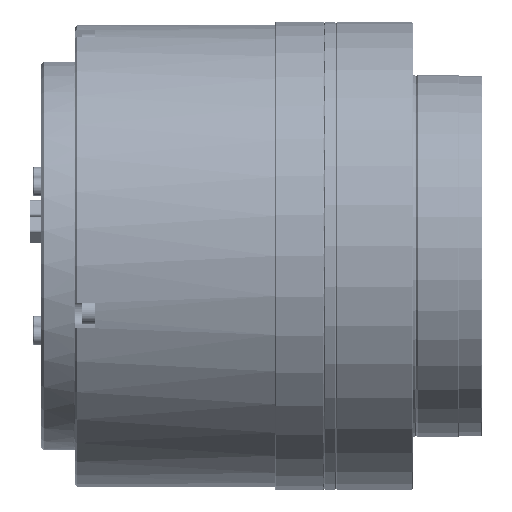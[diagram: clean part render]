
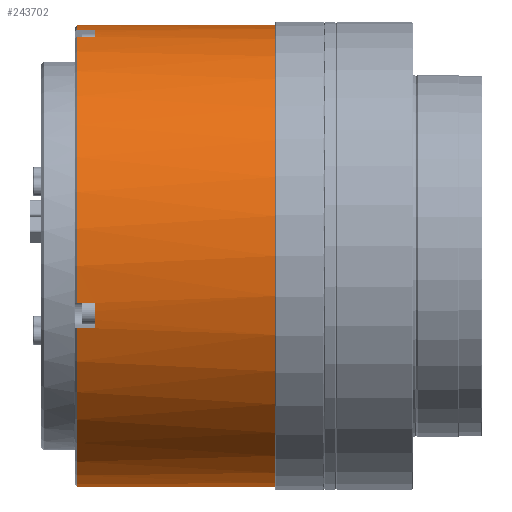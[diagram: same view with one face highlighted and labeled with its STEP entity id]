
A CAD part, front view. The second image highlights one B-rep face of the part: STEP entity #243702.
In plain terms, the highlighted cylindrical face has radius 70 mm (diameter 140 mm), a partial arc.
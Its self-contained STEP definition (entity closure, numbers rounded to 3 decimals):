
#1721 = DIRECTION ( 'NONE',  ( 1., 0., 0. ) ) ;
#7757 = VERTEX_POINT ( 'NONE', #84099 ) ;
#7813 = DIRECTION ( 'NONE',  ( 0., 0., 1. ) ) ;
#9472 = DIRECTION ( 'NONE',  ( 0., 0., 1. ) ) ;
#23084 = CARTESIAN_POINT ( 'NONE',  ( -75., -21.951, 66.469 ) ) ;
#24381 = DIRECTION ( 'NONE',  ( 0., 0., 1. ) ) ;
#24463 = DIRECTION ( 'NONE',  ( 1., 0., 0. ) ) ;
#29376 = VERTEX_POINT ( 'NONE', #42567 ) ;
#32503 = VERTEX_POINT ( 'NONE', #23084 ) ;
#32787 = CARTESIAN_POINT ( 'NONE',  ( 1.5, 0., 70. ) ) ;
#42509 = VERTEX_POINT ( 'NONE', #256988 ) ;
#42567 = CARTESIAN_POINT ( 'NONE',  ( -69.5, -68.54, -14.224 ) ) ;
#44840 = ORIENTED_EDGE ( 'NONE', *, *, #267050, .T. ) ;
#48623 = CARTESIAN_POINT ( 'NONE',  ( -75., 0., 0. ) ) ;
#52402 = VECTOR ( 'NONE', #241314, 1000. ) ;
#54624 = CARTESIAN_POINT ( 'NONE',  ( -75., 0., 0. ) ) ;
#54817 = VECTOR ( 'NONE', #123670, 1000. ) ;
#55961 = AXIS2_PLACEMENT_3D ( 'NONE', #54624, #250838, #9472 ) ;
#58087 = CARTESIAN_POINT ( 'NONE',  ( -69.5, -21.951, 66.469 ) ) ;
#59372 = EDGE_CURVE ( 'NONE', #32503, #139546, #212787, .T. ) ;
#59536 = CIRCLE ( 'NONE', #306115, 70. ) ;
#61565 = VECTOR ( 'NONE', #1721, 1000. ) ;
#61627 = EDGE_CURVE ( 'NONE', #212416, #263812, #244040, .T. ) ;
#62534 = CARTESIAN_POINT ( 'NONE',  ( 1.5, 0., 0. ) ) ;
#66127 = EDGE_CURVE ( 'NONE', #169932, #223142, #249253, .T. ) ;
#75438 = EDGE_CURVE ( 'NONE', #169932, #194197, #153491, .T. ) ;
#79126 = ORIENTED_EDGE ( 'NONE', *, *, #104207, .T. ) ;
#79288 = CARTESIAN_POINT ( 'NONE',  ( -69.5, -14.224, 68.54 ) ) ;
#79515 = DIRECTION ( 'NONE',  ( -1., 0., 0. ) ) ;
#81010 = CARTESIAN_POINT ( 'NONE',  ( 1.5, -21.951, 66.469 ) ) ;
#83406 = CARTESIAN_POINT ( 'NONE',  ( -75., 0., 0. ) ) ;
#84099 = CARTESIAN_POINT ( 'NONE',  ( -75., -14.224, 68.54 ) ) ;
#86568 = DIRECTION ( 'NONE',  ( 1., 0., 0. ) ) ;
#90928 = EDGE_CURVE ( 'NONE', #42509, #166811, #115056, .T. ) ;
#94027 = CARTESIAN_POINT ( 'NONE',  ( -69.5, 0., 0. ) ) ;
#94362 = CARTESIAN_POINT ( 'NONE',  ( -75., 0., 70. ) ) ;
#102030 = LINE ( 'NONE', #81010, #206074 ) ;
#103678 = ORIENTED_EDGE ( 'NONE', *, *, #59372, .T. ) ;
#104207 = EDGE_CURVE ( 'NONE', #139546, #29376, #245893, .T. ) ;
#106272 = CARTESIAN_POINT ( 'NONE',  ( -75., -68.54, -14.224 ) ) ;
#107898 = DIRECTION ( 'NONE',  ( 1., 0., 0. ) ) ;
#115056 = CIRCLE ( 'NONE', #186890, 70. ) ;
#123670 = DIRECTION ( 'NONE',  ( 1., 0., 0. ) ) ;
#123824 = CARTESIAN_POINT ( 'NONE',  ( 1.5, -66.469, -21.951 ) ) ;
#139546 = VERTEX_POINT ( 'NONE', #106272 ) ;
#141301 = ORIENTED_EDGE ( 'NONE', *, *, #61627, .F. ) ;
#143058 = CARTESIAN_POINT ( 'NONE',  ( 1.5, -68.54, -14.224 ) ) ;
#145299 = LINE ( 'NONE', #270669, #278869 ) ;
#145454 = DIRECTION ( 'NONE',  ( 0., 0., 1. ) ) ;
#147044 = EDGE_CURVE ( 'NONE', #176013, #29376, #59536, .T. ) ;
#151414 = CARTESIAN_POINT ( 'NONE',  ( -69.5, 0., 0. ) ) ;
#153491 = LINE ( 'NONE', #32787, #302237 ) ;
#155011 = DIRECTION ( 'NONE',  ( -1., 0., 0. ) ) ;
#156166 = CARTESIAN_POINT ( 'NONE',  ( -15., 0., 0. ) ) ;
#156277 = AXIS2_PLACEMENT_3D ( 'NONE', #48623, #24463, #220714 ) ;
#163834 = CYLINDRICAL_SURFACE ( 'NONE', #236151, 70. ) ;
#166811 = VERTEX_POINT ( 'NONE', #287426 ) ;
#168223 = ORIENTED_EDGE ( 'NONE', *, *, #256889, .T. ) ;
#169062 = LINE ( 'NONE', #276672, #61565 ) ;
#169926 = CARTESIAN_POINT ( 'NONE',  ( -15., 0., 70. ) ) ;
#169932 = VERTEX_POINT ( 'NONE', #169926 ) ;
#173108 = EDGE_CURVE ( 'NONE', #212416, #32503, #102030, .T. ) ;
#176013 = VERTEX_POINT ( 'NONE', #253584 ) ;
#178133 = EDGE_CURVE ( 'NONE', #223142, #166811, #145299, .T. ) ;
#186377 = DIRECTION ( 'NONE',  ( -1., 0., 0. ) ) ;
#186890 = AXIS2_PLACEMENT_3D ( 'NONE', #83406, #86568, #7813 ) ;
#187970 = FACE_OUTER_BOUND ( 'NONE', #284157, .T. ) ;
#193329 = DIRECTION ( 'NONE',  ( -1., 0., 0. ) ) ;
#194197 = VERTEX_POINT ( 'NONE', #94362 ) ;
#206074 = VECTOR ( 'NONE', #155011, 1000. ) ;
#212416 = VERTEX_POINT ( 'NONE', #58087 ) ;
#212787 = CIRCLE ( 'NONE', #156277, 70. ) ;
#216250 = DIRECTION ( 'NONE',  ( -1., 0., 0. ) ) ;
#220714 = DIRECTION ( 'NONE',  ( 0., 0., 1. ) ) ;
#223142 = VERTEX_POINT ( 'NONE', #258465 ) ;
#234851 = ORIENTED_EDGE ( 'NONE', *, *, #66127, .F. ) ;
#235844 = EDGE_CURVE ( 'NONE', #194197, #7757, #297277, .T. ) ;
#236151 = AXIS2_PLACEMENT_3D ( 'NONE', #62534, #186377, #261955 ) ;
#240448 = ORIENTED_EDGE ( 'NONE', *, *, #75438, .T. ) ;
#241314 = DIRECTION ( 'NONE',  ( -1., 0., 0. ) ) ;
#243702 = ADVANCED_FACE ( 'NONE', ( #187970 ), #163834, .T. ) ;
#244040 = CIRCLE ( 'NONE', #310822, 70. ) ;
#245893 = LINE ( 'NONE', #143058, #54817 ) ;
#247357 = ORIENTED_EDGE ( 'NONE', *, *, #147044, .F. ) ;
#249253 = CIRCLE ( 'NONE', #269940, 70. ) ;
#250838 = DIRECTION ( 'NONE',  ( 1., 0., 0. ) ) ;
#253584 = CARTESIAN_POINT ( 'NONE',  ( -69.5, -66.469, -21.951 ) ) ;
#255309 = ORIENTED_EDGE ( 'NONE', *, *, #173108, .T. ) ;
#256889 = EDGE_CURVE ( 'NONE', #7757, #263812, #169062, .T. ) ;
#256988 = CARTESIAN_POINT ( 'NONE',  ( -75., -66.469, -21.951 ) ) ;
#258465 = CARTESIAN_POINT ( 'NONE',  ( -15., 0., -70. ) ) ;
#261955 = DIRECTION ( 'NONE',  ( 0., 0., 1. ) ) ;
#263812 = VERTEX_POINT ( 'NONE', #79288 ) ;
#267013 = LINE ( 'NONE', #123824, #52402 ) ;
#267050 = EDGE_CURVE ( 'NONE', #176013, #42509, #267013, .T. ) ;
#269940 = AXIS2_PLACEMENT_3D ( 'NONE', #156166, #107898, #296202 ) ;
#270669 = CARTESIAN_POINT ( 'NONE',  ( 1.5, 0., -70. ) ) ;
#275323 = ORIENTED_EDGE ( 'NONE', *, *, #178133, .F. ) ;
#276672 = CARTESIAN_POINT ( 'NONE',  ( 1.5, -14.224, 68.54 ) ) ;
#278869 = VECTOR ( 'NONE', #290070, 1000. ) ;
#279315 = ORIENTED_EDGE ( 'NONE', *, *, #235844, .T. ) ;
#284157 = EDGE_LOOP ( 'NONE', ( #275323, #234851, #240448, #279315, #168223, #141301, #255309, #103678, #79126, #247357, #44840, #294150 ) ) ;
#287426 = CARTESIAN_POINT ( 'NONE',  ( -75., 0., -70. ) ) ;
#290070 = DIRECTION ( 'NONE',  ( -1., 0., 0. ) ) ;
#294150 = ORIENTED_EDGE ( 'NONE', *, *, #90928, .T. ) ;
#296202 = DIRECTION ( 'NONE',  ( 0., 0., -1. ) ) ;
#297277 = CIRCLE ( 'NONE', #55961, 70. ) ;
#302237 = VECTOR ( 'NONE', #79515, 1000. ) ;
#306115 = AXIS2_PLACEMENT_3D ( 'NONE', #94027, #216250, #145454 ) ;
#310822 = AXIS2_PLACEMENT_3D ( 'NONE', #151414, #193329, #24381 ) ;
